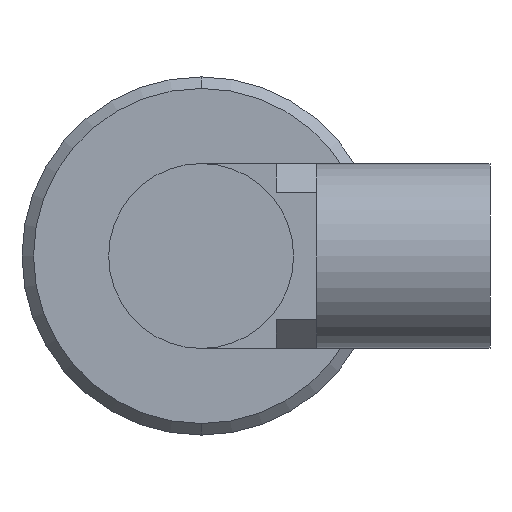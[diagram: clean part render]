
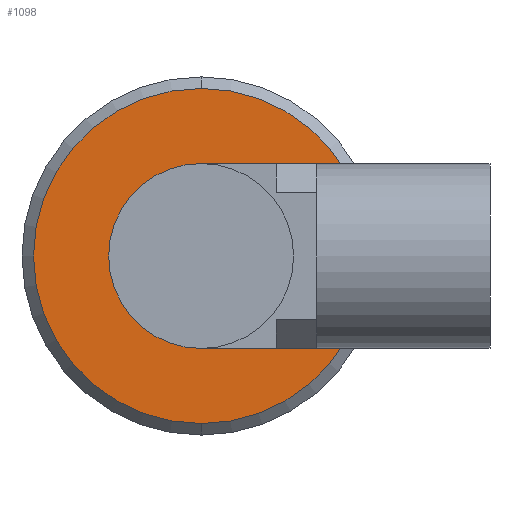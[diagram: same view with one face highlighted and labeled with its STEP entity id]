
A CAD part, left-side view. The second image highlights one B-rep face of the part: STEP entity #1098.
In plain terms, the highlighted planar face has unit normal (-1, 0, 0).
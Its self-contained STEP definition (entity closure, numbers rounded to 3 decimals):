
#109 = CIRCLE ( 'NONE', #558, 14.5 ) ;
#117 = EDGE_LOOP ( 'NONE', ( #229, #872 ) ) ;
#146 = CIRCLE ( 'NONE', #305, 14.5 ) ;
#189 = EDGE_CURVE ( 'NONE', #1554, #893, #146, .T. ) ;
#194 = EDGE_CURVE ( 'NONE', #893, #1554, #109, .T. ) ;
#210 = ORIENTED_EDGE ( 'NONE', *, *, #194, .T. ) ;
#215 = FACE_OUTER_BOUND ( 'NONE', #1075, .T. ) ;
#229 = ORIENTED_EDGE ( 'NONE', *, *, #903, .F. ) ;
#305 = AXIS2_PLACEMENT_3D ( 'NONE', #1188, #328, #1070 ) ;
#310 = DIRECTION ( 'NONE',  ( -1., 0., 0. ) ) ;
#323 = CARTESIAN_POINT ( 'NONE',  ( 73.9, 0., -8. ) ) ;
#328 = DIRECTION ( 'NONE',  ( -1., 0., 0. ) ) ;
#419 = CIRCLE ( 'NONE', #703, 8. ) ;
#423 = CARTESIAN_POINT ( 'NONE',  ( 73.9, 0., -14.5 ) ) ;
#516 = CIRCLE ( 'NONE', #997, 8. ) ;
#555 = DIRECTION ( 'NONE',  ( 1., 0., 0. ) ) ;
#558 = AXIS2_PLACEMENT_3D ( 'NONE', #815, #1575, #700 ) ;
#587 = VERTEX_POINT ( 'NONE', #323 ) ;
#593 = FACE_BOUND ( 'NONE', #117, .T. ) ;
#644 = DIRECTION ( 'NONE',  ( -1., 0., 0. ) ) ;
#700 = DIRECTION ( 'NONE',  ( 0., 0., 1. ) ) ;
#703 = AXIS2_PLACEMENT_3D ( 'NONE', #1398, #644, #1262 ) ;
#815 = CARTESIAN_POINT ( 'NONE',  ( 73.9, 0., 0. ) ) ;
#872 = ORIENTED_EDGE ( 'NONE', *, *, #1141, .F. ) ;
#892 = CARTESIAN_POINT ( 'NONE',  ( 73.9, 0., 8. ) ) ;
#893 = VERTEX_POINT ( 'NONE', #423 ) ;
#903 = EDGE_CURVE ( 'NONE', #1043, #587, #419, .T. ) ;
#908 = AXIS2_PLACEMENT_3D ( 'NONE', #1369, #555, #1422 ) ;
#997 = AXIS2_PLACEMENT_3D ( 'NONE', #1051, #310, #1175 ) ;
#999 = CARTESIAN_POINT ( 'NONE',  ( 73.9, 0., 14.5 ) ) ;
#1043 = VERTEX_POINT ( 'NONE', #892 ) ;
#1051 = CARTESIAN_POINT ( 'NONE',  ( 73.9, 0., 0. ) ) ;
#1070 = DIRECTION ( 'NONE',  ( 0., 0., 1. ) ) ;
#1075 = EDGE_LOOP ( 'NONE', ( #210, #1615 ) ) ;
#1098 = ADVANCED_FACE ( 'NONE', ( #593, #215 ), #1496, .F. ) ;
#1141 = EDGE_CURVE ( 'NONE', #587, #1043, #516, .T. ) ;
#1175 = DIRECTION ( 'NONE',  ( 0., 0., 1. ) ) ;
#1188 = CARTESIAN_POINT ( 'NONE',  ( 73.9, 0., 0. ) ) ;
#1262 = DIRECTION ( 'NONE',  ( 0., 0., 1. ) ) ;
#1369 = CARTESIAN_POINT ( 'NONE',  ( 73.9, 14.5, 0. ) ) ;
#1398 = CARTESIAN_POINT ( 'NONE',  ( 73.9, 0., 0. ) ) ;
#1422 = DIRECTION ( 'NONE',  ( 0., 0., -1. ) ) ;
#1496 = PLANE ( 'NONE',  #908 ) ;
#1554 = VERTEX_POINT ( 'NONE', #999 ) ;
#1575 = DIRECTION ( 'NONE',  ( -1., 0., 0. ) ) ;
#1615 = ORIENTED_EDGE ( 'NONE', *, *, #189, .T. ) ;
